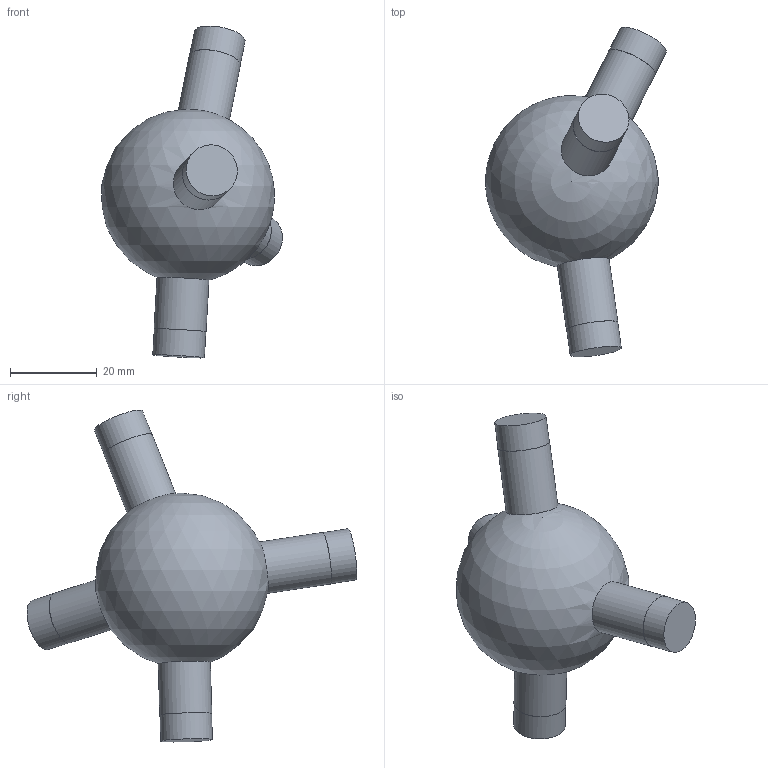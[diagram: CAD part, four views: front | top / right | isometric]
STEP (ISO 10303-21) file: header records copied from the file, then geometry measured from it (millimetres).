
FILE_DESCRIPTION(('Open CASCADE Model'),'2;1');
FILE_NAME('Open CASCADE Shape Model','2026-10-21T12:47:57',('Author'),( 'Open CASCADE'),'Open CASCADE STEP processor 7.9','Open CASCADE 7.9' ,'Unknown');
FILE_SCHEMA(('AUTOMOTIVE_DESIGN { 1 0 10303 214 1 1 1 1 }'));
Length unit declared in the file: millimetre
Products named in the file (1): Open CASCADE STEP translator 7.9 90
Bounding box: 41.68 x 75.96 x 76.45 mm (x, y, z)
Volume: 42166.1 mm3; surface area: 7978.6 mm2
Topology: 1 solids, 1 shells, 17 faces, 27 edges, 18 vertices
Faces by surface type: cylinder 8, plane 8, sphere 1
Full cylindrical faces by diameter (mm): 11.9 x4, 12 x4
Entity records: 1003 total; most frequent: CARTESIAN_POINT 385, DIRECTION 127, ORIENTED_EDGE 52, PCURVE 52, DEFINITIONAL_REPRESENTATION 52, LINE 43, VECTOR 43, AXIS2_PLACEMENT_3D 36
